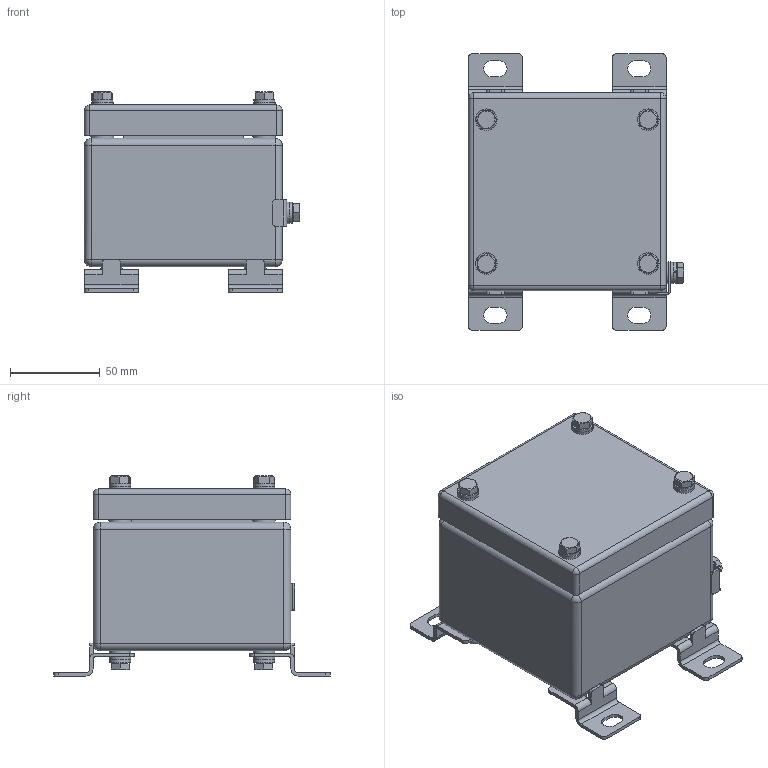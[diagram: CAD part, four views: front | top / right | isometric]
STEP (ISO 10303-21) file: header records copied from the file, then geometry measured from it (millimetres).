
FILE_DESCRIPTION((''),'2;1');
FILE_NAME('C:\OGURNAYA\Готовые чертежи\ТЗ 2019\43786\КСРВ-Н111109.stp','2019-08-05T09:42:57',('A.S.Kozlov'),(''),'Autodesk Inventor 2012','Autodesk Inventor 2012','');
FILE_SCHEMA(('CONFIG_CONTROL_DESIGN'));
Length unit declared in the file: millimetre
Products named in the file (1): КСРВ-(параметрическая модель)_Внешний контур_1
Bounding box: 119.7 x 154 x 111.2 mm (x, y, z)
Surface area: 199586 mm2 (no closed solid volume)
Topology: 0 solids, 48 shells, 976 faces, 2151 edges, 1339 vertices
Faces by surface type: plane 510, cylinder 324, cone 64, sphere 28, torus 26, bspline 24
Full cylindrical faces by diameter (mm): 1 x6, 4.917 x13, 5 x4, 5.459 x5, 6 x9, 6.4 x9, 6.9 x4, 7 x4, 7.5 x13, 8 x4, 8.7 x5, 9 x15, 10 x4, 12 x19, 12.7 x4, 15 x3
Entity records: 27209 total; most frequent: CARTESIAN_POINT 5111, DIRECTION 4558, ORIENTED_EDGE 3886, EDGE_CURVE 1943, AXIS2_PLACEMENT_3D 1758, VERTEX_POINT 1311, EDGE_LOOP 1304, VECTOR 1042
